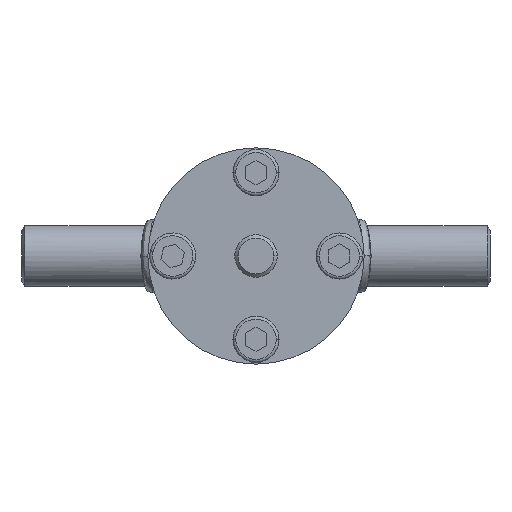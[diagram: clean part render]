
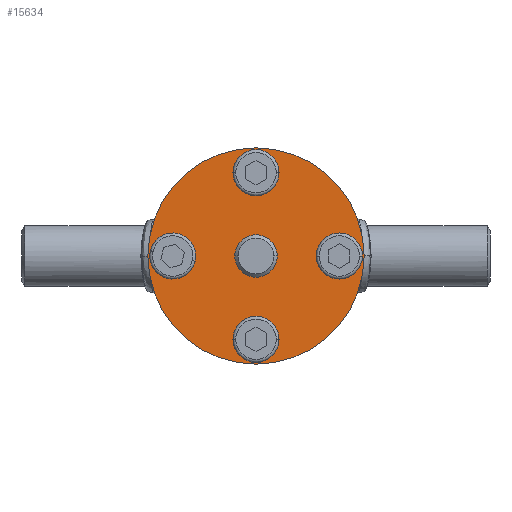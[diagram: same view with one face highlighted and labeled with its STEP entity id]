
A CAD part, front view. The second image highlights one B-rep face of the part: STEP entity #15634.
In plain terms, the highlighted planar face has unit normal (0, -1, 0) as drawn and (0, 0, -1) by its records, which use the part's own axes.
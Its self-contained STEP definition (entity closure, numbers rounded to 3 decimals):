
#16461 = CIRCLE ( 'NONE', #16462, 4.5 ) ;
#16462 = AXIS2_PLACEMENT_3D ( 'NONE', #16463, #16464, #16465 ) ;
#16463 = CARTESIAN_POINT ( 'NONE',  ( 0., 23.5, -18.5 ) ) ;
#16464 = DIRECTION ( 'NONE',  ( 0., 0., 1. ) ) ;
#16465 = DIRECTION ( 'NONE',  ( -1., 0., 0. ) ) ;
#16470 = VERTEX_POINT ( 'NONE', #15187 ) ;
#16600 = ORIENTED_EDGE ( 'NONE', *, *, #13449, .T. ) ;
#16611 = CARTESIAN_POINT ( 'NONE',  ( 4.5, -23.5, -18.5 ) ) ;
#16698 = ORIENTED_EDGE ( 'NONE', *, *, #935, .T. ) ;
#452 = EDGE_CURVE ( 'NONE', #7508, #7325, #17000, .T. ) ;
#16980 = CARTESIAN_POINT ( 'NONE',  ( -28., 0., -18.5 ) ) ;
#17000 = CIRCLE ( 'NONE', #17001, 6. ) ;
#17001 = AXIS2_PLACEMENT_3D ( 'NONE', #17002, #17003, #17004 ) ;
#17002 = CARTESIAN_POINT ( 'NONE',  ( 0., 0., -18.5 ) ) ;
#17003 = DIRECTION ( 'NONE',  ( 0., 0., -1. ) ) ;
#17004 = DIRECTION ( 'NONE',  ( -1., 0., 0. ) ) ;
#749 = VERTEX_POINT ( 'NONE', #17182 ) ;
#17182 = CARTESIAN_POINT ( 'NONE',  ( -4.5, -23.5, -18.5 ) ) ;
#17275 = CIRCLE ( 'NONE', #17276, 4.5 ) ;
#17276 = AXIS2_PLACEMENT_3D ( 'NONE', #17277, #17278, #17279 ) ;
#17277 = CARTESIAN_POINT ( 'NONE',  ( 0., -23.5, -18.5 ) ) ;
#17278 = DIRECTION ( 'NONE',  ( 0., 0., 1. ) ) ;
#17279 = DIRECTION ( 'NONE',  ( -1., 0., 0. ) ) ;
#935 = EDGE_CURVE ( 'NONE', #749, #8328, #17275, .T. ) ;
#17537 = CIRCLE ( 'NONE', #17538, 4.5 ) ;
#17538 = AXIS2_PLACEMENT_3D ( 'NONE', #17539, #17540, #17557 ) ;
#17539 = CARTESIAN_POINT ( 'NONE',  ( 23.5, 0., -18.5 ) ) ;
#17540 = DIRECTION ( 'NONE',  ( 0., 0., 1. ) ) ;
#17557 = DIRECTION ( 'NONE',  ( -1., 0., 0. ) ) ;
#17563 = CIRCLE ( 'NONE', #17564, 4.5 ) ;
#17564 = AXIS2_PLACEMENT_3D ( 'NONE', #17565, #17566, #17567 ) ;
#17565 = CARTESIAN_POINT ( 'NONE',  ( -23.5, 0., -18.5 ) ) ;
#17566 = DIRECTION ( 'NONE',  ( 0., 0., 1. ) ) ;
#17567 = DIRECTION ( 'NONE',  ( -1., 0., 0. ) ) ;
#18040 = VERTEX_POINT ( 'NONE', #16303 ) ;
#18135 = CARTESIAN_POINT ( 'NONE',  ( 4.5, 23.5, -18.5 ) ) ;
#1888 = EDGE_CURVE ( 'NONE', #7424, #7600, #18709, .T. ) ;
#18455 = EDGE_CURVE ( 'NONE', #18040, #20136, #16461, .T. ) ;
#18709 = CIRCLE ( 'NONE', #18710, 30.5 ) ;
#18710 = AXIS2_PLACEMENT_3D ( 'NONE', #18711, #18712, #18713 ) ;
#18711 = CARTESIAN_POINT ( 'NONE',  ( 0., 0., -18.5 ) ) ;
#18712 = DIRECTION ( 'NONE',  ( 0., 0., 1. ) ) ;
#18713 = DIRECTION ( 'NONE',  ( -1., 0., 0. ) ) ;
#2902 = EDGE_LOOP ( 'NONE', ( #16698, #16600 ) ) ;
#2960 = ORIENTED_EDGE ( 'NONE', *, *, #9140, .F. ) ;
#3313 = ORIENTED_EDGE ( 'NONE', *, *, #452, .F. ) ;
#19921 = CIRCLE ( 'NONE', #19922, 6. ) ;
#19922 = AXIS2_PLACEMENT_3D ( 'NONE', #19923, #19924, #19925 ) ;
#19923 = CARTESIAN_POINT ( 'NONE',  ( 0., 0., -18.5 ) ) ;
#19924 = DIRECTION ( 'NONE',  ( 0., 0., -1. ) ) ;
#19925 = DIRECTION ( 'NONE',  ( -1., 0., 0. ) ) ;
#20136 = VERTEX_POINT ( 'NONE', #18135 ) ;
#20580 = CARTESIAN_POINT ( 'NONE',  ( -19., 0., -18.5 ) ) ;
#4400 = CIRCLE ( 'NONE', #4401, 4.5 ) ;
#4401 = AXIS2_PLACEMENT_3D ( 'NONE', #4402, #4403, #4404 ) ;
#4402 = CARTESIAN_POINT ( 'NONE',  ( -23.5, 0., -18.5 ) ) ;
#4403 = DIRECTION ( 'NONE',  ( 0., 0., 1. ) ) ;
#4404 = DIRECTION ( 'NONE',  ( -1., 0., 0. ) ) ;
#4791 = ORIENTED_EDGE ( 'NONE', *, *, #15576, .T. ) ;
#5143 = EDGE_LOOP ( 'NONE', ( #4791, #5707 ) ) ;
#5312 = EDGE_CURVE ( 'NONE', #7600, #7424, #12750, .T. ) ;
#5389 = ORIENTED_EDGE ( 'NONE', *, *, #12537, .T. ) ;
#5464 = EDGE_LOOP ( 'NONE', ( #3313, #2960 ) ) ;
#5707 = ORIENTED_EDGE ( 'NONE', *, *, #8726, .T. ) ;
#5836 = CIRCLE ( 'NONE', #5839, 4.5 ) ;
#5839 = AXIS2_PLACEMENT_3D ( 'NONE', #5840, #5841, #5842 ) ;
#5840 = CARTESIAN_POINT ( 'NONE',  ( 0., -23.5, -18.5 ) ) ;
#5841 = DIRECTION ( 'NONE',  ( 0., 0., 1. ) ) ;
#5842 = DIRECTION ( 'NONE',  ( -1., 0., 0. ) ) ;
#5875 = ORIENTED_EDGE ( 'NONE', *, *, #8746, .T. ) ;
#7325 = VERTEX_POINT ( 'NONE', #15600 ) ;
#7424 = VERTEX_POINT ( 'NONE', #15713 ) ;
#7508 = VERTEX_POINT ( 'NONE', #15933 ) ;
#7600 = VERTEX_POINT ( 'NONE', #15963 ) ;
#8328 = VERTEX_POINT ( 'NONE', #16611 ) ;
#8520 = VERTEX_POINT ( 'NONE', #16980 ) ;
#8726 = EDGE_CURVE ( 'NONE', #16470, #15352, #17537, .T. ) ;
#8746 = EDGE_CURVE ( 'NONE', #8520, #9638, #17563, .T. ) ;
#9140 = EDGE_CURVE ( 'NONE', #7325, #7508, #19921, .T. ) ;
#9638 = VERTEX_POINT ( 'NONE', #20580 ) ;
#10063 = EDGE_LOOP ( 'NONE', ( #10400, #12045 ) ) ;
#10400 = ORIENTED_EDGE ( 'NONE', *, *, #18455, .T. ) ;
#12045 = ORIENTED_EDGE ( 'NONE', *, *, #15784, .T. ) ;
#12537 = EDGE_CURVE ( 'NONE', #9638, #8520, #4400, .T. ) ;
#12750 = CIRCLE ( 'NONE', #12751, 30.5 ) ;
#12751 = AXIS2_PLACEMENT_3D ( 'NONE', #12752, #12753, #12754 ) ;
#12752 = CARTESIAN_POINT ( 'NONE',  ( 0., 0., -18.5 ) ) ;
#12753 = DIRECTION ( 'NONE',  ( 0., 0., 1. ) ) ;
#12754 = DIRECTION ( 'NONE',  ( -1., 0., 0. ) ) ;
#13190 = CARTESIAN_POINT ( 'NONE',  ( 19., 0., -18.5 ) ) ;
#13449 = EDGE_CURVE ( 'NONE', #8328, #749, #5836, .T. ) ;
#13495 = CIRCLE ( 'NONE', #13496, 4.5 ) ;
#13496 = AXIS2_PLACEMENT_3D ( 'NONE', #13497, #13498, #13499 ) ;
#13497 = CARTESIAN_POINT ( 'NONE',  ( 23.5, 0., -18.5 ) ) ;
#13498 = DIRECTION ( 'NONE',  ( 0., 0., 1. ) ) ;
#13499 = DIRECTION ( 'NONE',  ( -1., 0., 0. ) ) ;
#14287 = FACE_OUTER_BOUND ( 'NONE', #15393, .T. ) ;
#14288 = FACE_BOUND ( 'NONE', #14876, .T. ) ;
#14289 = FACE_BOUND ( 'NONE', #5143, .T. ) ;
#14290 = FACE_BOUND ( 'NONE', #5464, .T. ) ;
#14291 = FACE_BOUND ( 'NONE', #2902, .T. ) ;
#14292 = FACE_BOUND ( 'NONE', #10063, .T. ) ;
#14299 = PLANE ( 'NONE',  #14300 ) ;
#14300 = AXIS2_PLACEMENT_3D ( 'NONE', #14301, #14302, #14303 ) ;
#14301 = CARTESIAN_POINT ( 'NONE',  ( 0., 0., -18.5 ) ) ;
#14302 = DIRECTION ( 'NONE',  ( 0., 0., -1. ) ) ;
#14303 = DIRECTION ( 'NONE',  ( -1., 0., 0. ) ) ;
#14636 = CIRCLE ( 'NONE', #14637, 4.5 ) ;
#14637 = AXIS2_PLACEMENT_3D ( 'NONE', #14638, #14639, #14640 ) ;
#14638 = CARTESIAN_POINT ( 'NONE',  ( 0., 23.5, -18.5 ) ) ;
#14639 = DIRECTION ( 'NONE',  ( 0., 0., 1. ) ) ;
#14640 = DIRECTION ( 'NONE',  ( -1., 0., 0. ) ) ;
#14876 = EDGE_LOOP ( 'NONE', ( #5875, #5389 ) ) ;
#15043 = ORIENTED_EDGE ( 'NONE', *, *, #5312, .F. ) ;
#15114 = ORIENTED_EDGE ( 'NONE', *, *, #1888, .F. ) ;
#15187 = CARTESIAN_POINT ( 'NONE',  ( 28., 0., -18.5 ) ) ;
#15352 = VERTEX_POINT ( 'NONE', #13190 ) ;
#15393 = EDGE_LOOP ( 'NONE', ( #15043, #15114 ) ) ;
#15576 = EDGE_CURVE ( 'NONE', #15352, #16470, #13495, .T. ) ;
#15600 = CARTESIAN_POINT ( 'NONE',  ( 6., 0., -18.5 ) ) ;
#15634 = ADVANCED_FACE ( 'NONE', ( #14287, #14288, #14289, #14290, #14291, #14292 ), #14299, .T. ) ;
#15713 = CARTESIAN_POINT ( 'NONE',  ( -30.5, 0., -18.5 ) ) ;
#15784 = EDGE_CURVE ( 'NONE', #20136, #18040, #14636, .T. ) ;
#15933 = CARTESIAN_POINT ( 'NONE',  ( -6., 0., -18.5 ) ) ;
#15963 = CARTESIAN_POINT ( 'NONE',  ( 30.5, 0., -18.5 ) ) ;
#16303 = CARTESIAN_POINT ( 'NONE',  ( -4.5, 23.5, -18.5 ) ) ;
